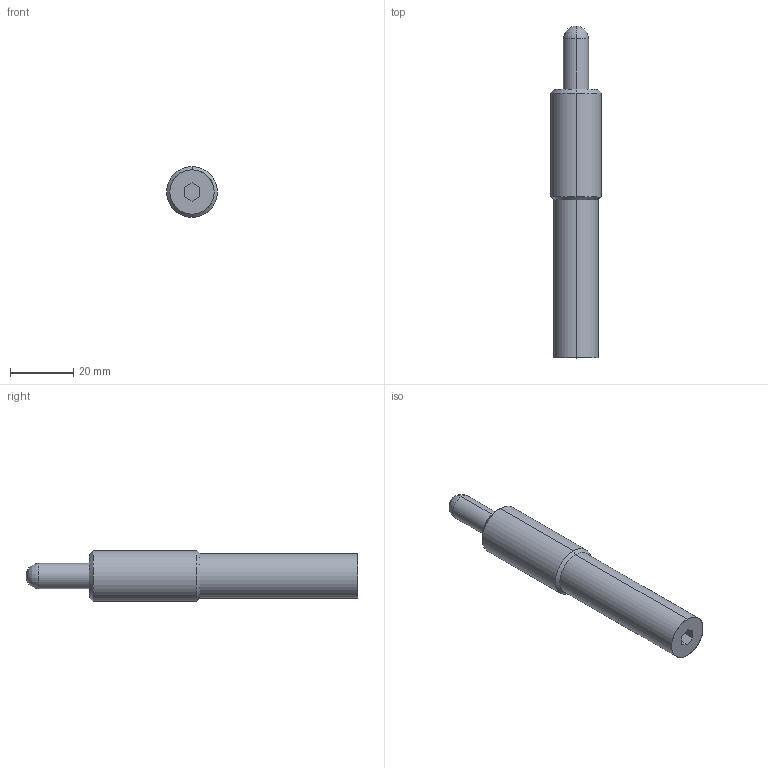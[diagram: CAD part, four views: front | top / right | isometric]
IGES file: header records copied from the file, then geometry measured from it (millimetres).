
Start section: START RECORD GO HERE.
Global section: file name: M314-04-010.igs; native system: DASSAULT SYSTEMES CATIA V5 R20 - www.3ds.com; preprocessor: CATIA Version 5 Release 20 ; author: Utente; organization: NB04-ASUS; date: 20200418.091203; units: millimetre
Bounding box: 16 x 105 x 16 mm (x, y, z)
Surface area: 4830.7 mm2 (no closed solid volume)
Topology: 0 solids, 0 shells, 21 faces, 90 edges, 88 vertices
Faces by surface type: revolution 12, extrusion 9
